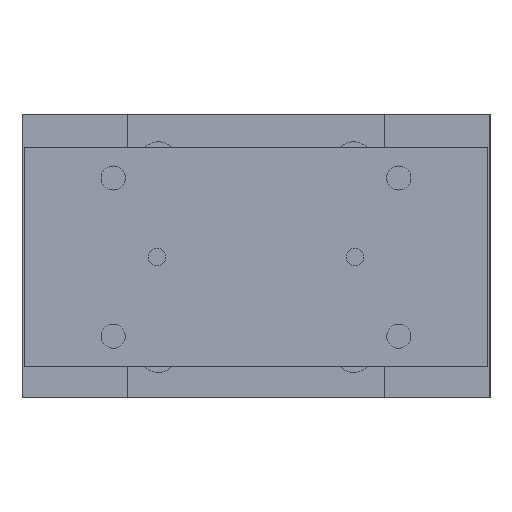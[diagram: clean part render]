
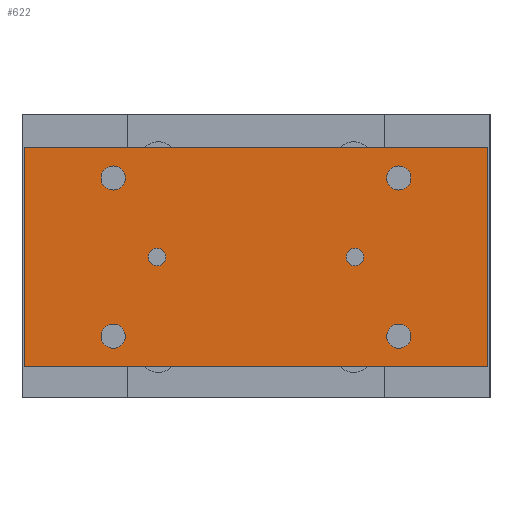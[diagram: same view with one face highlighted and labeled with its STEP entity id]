
A CAD part, left-side view. The second image highlights one B-rep face of the part: STEP entity #622.
In plain terms, the highlighted planar face has unit normal (-1, 0, 0).
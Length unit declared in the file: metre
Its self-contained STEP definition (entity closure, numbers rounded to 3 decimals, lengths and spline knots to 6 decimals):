
#622 = ADVANCED_FACE( '', ( #1387, #1388, #1389, #1390, #1391, #1392, #1393 ), #1394, .T. );
#1387 = FACE_BOUND( '', #2185, .T. );
#1388 = FACE_BOUND( '', #2186, .T. );
#1389 = FACE_BOUND( '', #2187, .T. );
#1390 = FACE_BOUND( '', #2188, .T. );
#1391 = FACE_BOUND( '', #2189, .T. );
#1392 = FACE_BOUND( '', #2190, .T. );
#1393 = FACE_OUTER_BOUND( '', #2191, .T. );
#1394 = PLANE( '', #2192 );
#2185 = EDGE_LOOP( '', ( #3650 ) );
#2186 = EDGE_LOOP( '', ( #3651 ) );
#2187 = EDGE_LOOP( '', ( #3652 ) );
#2188 = EDGE_LOOP( '', ( #3653 ) );
#2189 = EDGE_LOOP( '', ( #3654 ) );
#2190 = EDGE_LOOP( '', ( #3655 ) );
#2191 = EDGE_LOOP( '', ( #3656, #3657, #3658, #3659 ) );
#2192 = AXIS2_PLACEMENT_3D( '', #3660, #3661, #3662 );
#3650 = ORIENTED_EDGE( '', *, *, #4281, .F. );
#3651 = ORIENTED_EDGE( '', *, *, #4081, .F. );
#3652 = ORIENTED_EDGE( '', *, *, #4291, .F. );
#3653 = ORIENTED_EDGE( '', *, *, #3833, .F. );
#3654 = ORIENTED_EDGE( '', *, *, #4015, .F. );
#3655 = ORIENTED_EDGE( '', *, *, #4055, .T. );
#3656 = ORIENTED_EDGE( '', *, *, #3967, .T. );
#3657 = ORIENTED_EDGE( '', *, *, #4104, .T. );
#3658 = ORIENTED_EDGE( '', *, *, #3982, .T. );
#3659 = ORIENTED_EDGE( '', *, *, #4279, .T. );
#3660 = CARTESIAN_POINT( '', ( -0.1445, -0.1055, -0.015 ) );
#3661 = DIRECTION( '', ( -1., 0., 0. ) );
#3662 = DIRECTION( '', ( 0., -1., 0. ) );
#3833 = EDGE_CURVE( '', #4429, #4429, #4430, .T. );
#3967 = EDGE_CURVE( '', #4651, #4649, #4652, .T. );
#3982 = EDGE_CURVE( '', #4676, #4674, #4677, .T. );
#4015 = EDGE_CURVE( '', #4728, #4728, #4729, .T. );
#4055 = EDGE_CURVE( '', #4783, #4783, #4784, .T. );
#4081 = EDGE_CURVE( '', #4822, #4822, #4823, .T. );
#4104 = EDGE_CURVE( '', #4649, #4676, #4855, .T. );
#4279 = EDGE_CURVE( '', #4674, #4651, #5090, .T. );
#4281 = EDGE_CURVE( '', #5092, #5092, #5093, .T. );
#4291 = EDGE_CURVE( '', #5104, #5104, #5105, .T. );
#4429 = VERTEX_POINT( '', #5342 );
#4430 = CIRCLE( '', #5343, 0.0055 );
#4649 = VERTEX_POINT( '', #5664 );
#4651 = VERTEX_POINT( '', #5667 );
#4652 = LINE( '', #5668, #5669 );
#4674 = VERTEX_POINT( '', #5696 );
#4676 = VERTEX_POINT( '', #5699 );
#4677 = LINE( '', #5700, #5701 );
#4728 = VERTEX_POINT( '', #5795 );
#4729 = CIRCLE( '', #5796, 0.004 );
#4783 = VERTEX_POINT( '', #5930 );
#4784 = CIRCLE( '', #5931, 0.004 );
#4822 = VERTEX_POINT( '', #5982 );
#4823 = CIRCLE( '', #5983, 0.0055 );
#4855 = LINE( '', #6022, #6023 );
#5090 = LINE( '', #6334, #6335 );
#5092 = VERTEX_POINT( '', #6337 );
#5093 = CIRCLE( '', #6338, 0.0055 );
#5104 = VERTEX_POINT( '', #6382 );
#5105 = CIRCLE( '', #6383, 0.0055 );
#5342 = CARTESIAN_POINT( '', ( -0.1445, 0.0595, -0.029 ) );
#5343 = AXIS2_PLACEMENT_3D( '', #6492, #6493, #6494 );
#5664 = CARTESIAN_POINT( '', ( -0.1445, -0.1055, -0.015 ) );
#5667 = CARTESIAN_POINT( '', ( -0.1445, -0.1055, -0.115 ) );
#5668 = CARTESIAN_POINT( '', ( -0.1445, -0.1055, -0.115 ) );
#5669 = VECTOR( '', #6649, 1. );
#5696 = CARTESIAN_POINT( '', ( -0.1445, 0.1055, -0.115 ) );
#5699 = CARTESIAN_POINT( '', ( -0.1445, 0.1055, -0.015 ) );
#5700 = CARTESIAN_POINT( '', ( -0.1445, 0.1055, -0.015 ) );
#5701 = VECTOR( '', #6668, 1. );
#5795 = CARTESIAN_POINT( '', ( -0.1445, -0.045, -0.069 ) );
#5796 = AXIS2_PLACEMENT_3D( '', #6712, #6713, #6714 );
#5930 = CARTESIAN_POINT( '', ( -0.1445, 0.045, -0.069 ) );
#5931 = AXIS2_PLACEMENT_3D( '', #6750, #6751, #6752 );
#5982 = CARTESIAN_POINT( '', ( -0.1445, 0.0595, -0.101 ) );
#5983 = AXIS2_PLACEMENT_3D( '', #6775, #6776, #6777 );
#6022 = CARTESIAN_POINT( '', ( -0.1445, -0.1055, -0.015 ) );
#6023 = VECTOR( '', #6806, 1. );
#6334 = CARTESIAN_POINT( '', ( -0.1445, 0.1055, -0.115 ) );
#6335 = VECTOR( '', #6994, 1. );
#6337 = CARTESIAN_POINT( '', ( -0.1445, -0.0705, -0.101 ) );
#6338 = AXIS2_PLACEMENT_3D( '', #6995, #6996, #6997 );
#6382 = CARTESIAN_POINT( '', ( -0.1445, -0.0705, -0.029 ) );
#6383 = AXIS2_PLACEMENT_3D( '', #6998, #6999, #7000 );
#6492 = CARTESIAN_POINT( '', ( -0.1445, 0.065, -0.029 ) );
#6493 = DIRECTION( '', ( -1., 0., 0. ) );
#6494 = DIRECTION( '', ( 0., -1., 0. ) );
#6649 = DIRECTION( '', ( 0., 0., 1. ) );
#6668 = DIRECTION( '', ( 0., 0., -1. ) );
#6712 = CARTESIAN_POINT( '', ( -0.1445, -0.045, -0.065 ) );
#6713 = DIRECTION( '', ( -1., 0., 0. ) );
#6714 = DIRECTION( '', ( 0., 0., -1. ) );
#6750 = CARTESIAN_POINT( '', ( -0.1445, 0.045, -0.065 ) );
#6751 = DIRECTION( '', ( 1., 0., 0. ) );
#6752 = DIRECTION( '', ( 0., 0., -1. ) );
#6775 = CARTESIAN_POINT( '', ( -0.1445, 0.065, -0.101 ) );
#6776 = DIRECTION( '', ( -1., 0., 0. ) );
#6777 = DIRECTION( '', ( 0., -1., 0. ) );
#6806 = DIRECTION( '', ( 0., 1., 0. ) );
#6994 = DIRECTION( '', ( 0., -1., 0. ) );
#6995 = CARTESIAN_POINT( '', ( -0.1445, -0.065, -0.101 ) );
#6996 = DIRECTION( '', ( -1., 0., 0. ) );
#6997 = DIRECTION( '', ( 0., -1., 0. ) );
#6998 = CARTESIAN_POINT( '', ( -0.1445, -0.065, -0.029 ) );
#6999 = DIRECTION( '', ( -1., 0., 0. ) );
#7000 = DIRECTION( '', ( 0., -1., 0. ) );
